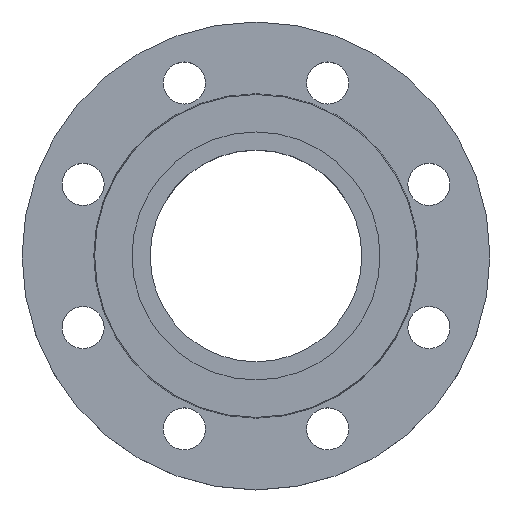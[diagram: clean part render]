
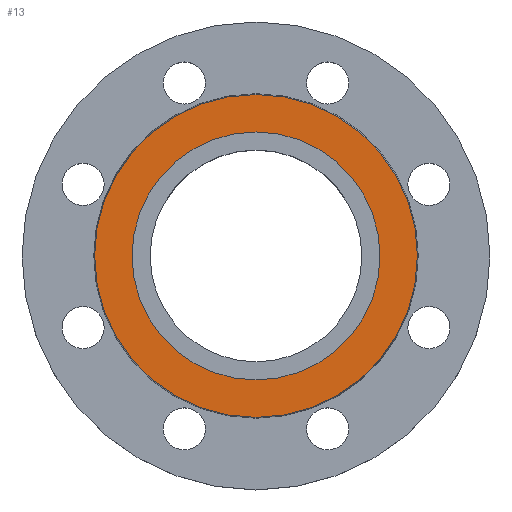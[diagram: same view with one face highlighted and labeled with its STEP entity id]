
A CAD part, top view. The second image highlights one B-rep face of the part: STEP entity #13.
In plain terms, the highlighted planar face has unit normal (0, 0, 1).
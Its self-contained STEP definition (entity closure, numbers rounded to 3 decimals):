
#4 = EDGE_CURVE ( 'NONE', #930, #636, #947, .T. ) ;
#13 = ADVANCED_FACE ( 'NONE', ( #702, #703 ), #704, .T. ) ;
#159 = CARTESIAN_POINT ( 'NONE',  ( -69., 0., 0. ) ) ;
#180 = DIRECTION ( 'NONE',  ( -1., 0., 0. ) ) ;
#181 = DIRECTION ( 'NONE',  ( 0., 0., -1. ) ) ;
#182 = CARTESIAN_POINT ( 'NONE',  ( 0., 0., 0. ) ) ;
#223 = CARTESIAN_POINT ( 'NONE',  ( -53., 0., 0. ) ) ;
#235 = DIRECTION ( 'NONE',  ( -1., 0., 0. ) ) ;
#236 = DIRECTION ( 'NONE',  ( 0., 0., -1. ) ) ;
#238 = CARTESIAN_POINT ( 'NONE',  ( 0., 0., 0. ) ) ;
#271 = CIRCLE ( 'NONE', #273, 53. ) ;
#273 = AXIS2_PLACEMENT_3D ( 'NONE', #345, #344, #341 ) ;
#309 = CIRCLE ( 'NONE', #329, 69. ) ;
#320 = CARTESIAN_POINT ( 'NONE',  ( 53., 0., 0. ) ) ;
#325 = CARTESIAN_POINT ( 'NONE',  ( 69., 0., 0. ) ) ;
#329 = AXIS2_PLACEMENT_3D ( 'NONE', #238, #236, #235 ) ;
#341 = DIRECTION ( 'NONE',  ( -1., 0., 0. ) ) ;
#344 = DIRECTION ( 'NONE',  ( 0., 0., -1. ) ) ;
#345 = CARTESIAN_POINT ( 'NONE',  ( 0., 0., 0. ) ) ;
#600 = AXIS2_PLACEMENT_3D ( 'NONE', #182, #181, #180 ) ;
#628 = EDGE_CURVE ( 'NONE', #858, #647, #271, .T. ) ;
#636 = VERTEX_POINT ( 'NONE', #325 ) ;
#640 = EDGE_LOOP ( 'NONE', ( #984, #986 ) ) ;
#647 = VERTEX_POINT ( 'NONE', #320 ) ;
#689 = CARTESIAN_POINT ( 'NONE',  ( 0., 0., 0. ) ) ;
#690 = DIRECTION ( 'NONE',  ( 0., 0., -1. ) ) ;
#691 = DIRECTION ( 'NONE',  ( -1., 0., 0. ) ) ;
#702 = FACE_OUTER_BOUND ( 'NONE', #640, .T. ) ;
#703 = FACE_BOUND ( 'NONE', #850, .T. ) ;
#704 = PLANE ( 'NONE',  #802 ) ;
#705 = CARTESIAN_POINT ( 'NONE',  ( 0., 0., 0. ) ) ;
#706 = DIRECTION ( 'NONE',  ( 0., 0., 1. ) ) ;
#708 = DIRECTION ( 'NONE',  ( 1., 0., 0. ) ) ;
#802 = AXIS2_PLACEMENT_3D ( 'NONE', #705, #706, #708 ) ;
#842 = EDGE_CURVE ( 'NONE', #636, #930, #309, .T. ) ;
#850 = EDGE_LOOP ( 'NONE', ( #987, #988 ) ) ;
#858 = VERTEX_POINT ( 'NONE', #223 ) ;
#894 = EDGE_CURVE ( 'NONE', #647, #858, #985, .T. ) ;
#930 = VERTEX_POINT ( 'NONE', #159 ) ;
#947 = CIRCLE ( 'NONE', #1024, 69. ) ;
#984 = ORIENTED_EDGE ( 'NONE', *, *, #4, .F. ) ;
#985 = CIRCLE ( 'NONE', #600, 53. ) ;
#986 = ORIENTED_EDGE ( 'NONE', *, *, #842, .F. ) ;
#987 = ORIENTED_EDGE ( 'NONE', *, *, #628, .T. ) ;
#988 = ORIENTED_EDGE ( 'NONE', *, *, #894, .T. ) ;
#1024 = AXIS2_PLACEMENT_3D ( 'NONE', #689, #690, #691 ) ;
